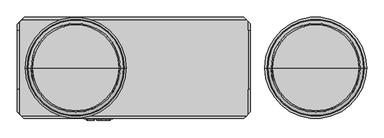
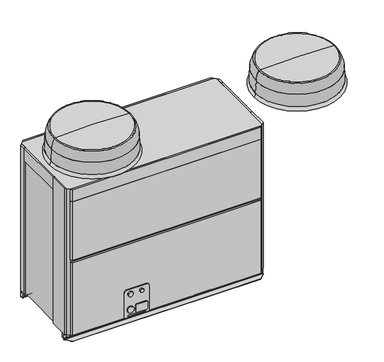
"""IFC4 building model written with IfcOpenShell, lengths in millimetres: proxy geometry, PURY-P168-288_YSJMU_Heat_Recovery_460V : PURY-P192YSJMU-A(-BS)_460V."""

from ifc_helpers import new_model, si_unit, point, frame, frame_2d, origin, place, context, project, spatial, polyline, circle_curve, ellipse_curve, trimmed, segment, composite_curve, outline, extrude, source, transform, mapped, element, save
from ifc_brep_helpers import plane_surface, cylinder_surface, revolved_surface, advanced_brep


def mechanical_equipment_7c6ddfd4(model_context):
    return source(origin(), model_context, "Body", "SolidModel", [
        advanced_brep(
        [(1130.4156536, 0.0, 1550.0000157), (1851.6603464, 0.0, 1550.0000157), (1491.038, 0.0, 1550.0000157), (1156.2569245, 0.0, 1635.7196156), (1825.8190755, 0.0, 1635.7196156), (1165.4260831, 0.0, 1640.2981249), (1816.6499169, 0.0, 1640.2981249), (1491.038, 0.0, 1649.794168)],
        [
            (0, 1, circle_curve(frame((1491.038, 0.0, 1550.0000157), z_axis=(0.0, 0.0, -1.0), x_axis=(1.0, 0.0, 0.0)), 360.6223464)),
            (1, 2),
            (2, 0),
            (1, 0, circle_curve(frame((1491.038, 0.0, 1550.0000157), z_axis=(0.0, 0.0, -1.0), x_axis=(1.0, 0.0, 0.0)), 360.6223464)),
            (3, 4, circle_curve(frame((1491.038, 0.0, 1635.7196156), z_axis=(0.0, 0.0, -1.0), x_axis=(1.0, 0.0, 0.0)), 334.7810755)),
            (4, 1, circle_curve(frame((1667.7568175, 0.0, 1541.3148332), z_axis=(0.0, 1.0, 0.0), x_axis=(1.0, 0.0, 0.0)), 184.1085015)),
            (0, 3, circle_curve(frame((1314.3191825, 0.0, 1541.3148332), z_axis=(0.0, 1.0, 0.0), x_axis=(-1.0, 0.0, 0.0)), 184.1085015)),
            (4, 3, circle_curve(frame((1491.038, 0.0, 1635.7196156), z_axis=(0.0, 0.0, -1.0), x_axis=(1.0, 0.0, 0.0)), 334.7810755)),
            (5, 6, circle_curve(frame((1491.038, 0.0, 1640.2981249), z_axis=(0.0, 0.0, -1.0), x_axis=(1.0, 0.0, 0.0)), 325.6119169)),
            (6, 4, circle_curve(frame((1816.6499169, 0.0, 1628.8275558), z_axis=(0.0, 1.0, 0.0), x_axis=(1.0, 0.0, 0.0)), 11.4705691)),
            (3, 5, circle_curve(frame((1165.4260831, 0.0, 1628.8275558), z_axis=(0.0, 1.0, 0.0), x_axis=(-1.0, 0.0, 0.0)), 11.4705691)),
            (6, 5, circle_curve(frame((1491.038, 0.0, 1640.2981249), z_axis=(0.0, 0.0, -1.0), x_axis=(1.0, 0.0, 0.0)), 325.6119169)),
            (7, 6, circle_curve(frame((1491.038, 0.0, -3937.4433334), z_axis=(0.0, 1.0, 0.0), x_axis=(1.0, 0.0, 0.0)), 5587.2375013)),
            (5, 7, circle_curve(frame((1491.038, 0.0, -3937.4433334), z_axis=(0.0, 1.0, 0.0), x_axis=(-1.0, 0.0, 0.0)), 5587.2375013)),
        ],
        [
            plane_surface(frame((1491.038, 0.0, 1550.0000157), z_axis=(0.0, 0.0, -1.0), x_axis=(1.0, 0.0, 0.0))),
            revolved_surface(trimmed(ellipse_curve(frame((1667.7568175, 0.0, 1541.3148332), z_axis=(0.0, -1.0, 0.0), x_axis=(1.0, 0.0, 0.0)), 184.1085015, 184.1085015), [point((1851.6603464, 0.0, 1550.0000157))], [point((1825.8190755, 0.0, 1635.7196156))], True, "CARTESIAN"), (1491.038, 0.0, 1605.0), (0.0, 0.0, 1.0)),
            revolved_surface(trimmed(ellipse_curve(frame((1816.6499169, 0.0, 1628.8275558), z_axis=(0.0, -1.0, 0.0), x_axis=(1.0, 0.0, 0.0)), 11.4705691, 11.4705691), [point((1825.8190755, 0.0, 1635.7196156))], [point((1816.6499169, 0.0, 1640.2981249))], True, "CARTESIAN"), (1491.038, 0.0, 1605.0), (0.0, 0.0, 1.0)),
            revolved_surface(trimmed(ellipse_curve(frame((1491.038, 0.0, -3937.4433334), z_axis=(0.0, -1.0, 0.0), x_axis=(1.0, 0.0, 0.0)), 5587.2375013, 5587.2375013), [point((1816.6499169, 0.0, 1640.2981249))], [point((1491.038, 0.0, 1649.794168))], True, "CARTESIAN"), (1491.038, 0.0, 1605.0), (0.0, 0.0, 1.0)),
        ],
        [
            (0, [[1, 2, 3]]),
            (0, [[4, -3, -2]]),
            (1, [[5, 6, -1, 7]]),
            (1, [[8, -7, -4, -6]]),
            (2, [[9, 10, -5, 11]]),
            (2, [[12, -11, -8, -10]]),
            (3, [[13, -9, 14]]),
            (3, [[-14, -12, -13]]),
        ],
    ),
        advanced_brep(
        [(1108.9881528, 0.0, 1410.0), (1873.0878472, 0.0, 1410.0), (1491.038, 0.0, 1410.0), (1125.5531583, 0.0, 1438.6914312), (1856.5228417, 0.0, 1438.6914312), (1130.4129453, 0.0, 1550.0000157), (1851.6630547, 0.0, 1550.0000157), (1491.038, 0.0, 1550.0000157)],
        [
            (0, 1, circle_curve(frame((1491.038, 0.0, 1410.0), z_axis=(0.0, 0.0, -1.0), x_axis=(1.0, 0.0, 0.0)), 382.0498472)),
            (1, 2),
            (2, 0),
            (1, 0, circle_curve(frame((1491.038, 0.0, 1410.0), z_axis=(0.0, 0.0, -1.0), x_axis=(1.0, 0.0, 0.0)), 382.0498472)),
            (3, 4, circle_curve(frame((1491.038, 0.0, 1438.6914312), z_axis=(0.0, 0.0, -1.0), x_axis=(1.0, 0.0, 0.0)), 365.4848417)),
            (4, 1, circle_curve(frame((1877.2748091, 0.0, 1431.5449644), z_axis=(0.0, -1.0, 0.0), x_axis=(1.0, 0.0, 0.0)), 21.9480327)),
            (0, 3, circle_curve(frame((1104.8011909, 0.0, 1431.5449644), z_axis=(0.0, -1.0, 0.0), x_axis=(-1.0, 0.0, 0.0)), 21.9480327)),
            (4, 3, circle_curve(frame((1491.038, 0.0, 1438.6914312), z_axis=(0.0, 0.0, -1.0), x_axis=(1.0, 0.0, 0.0)), 365.4848417)),
            (5, 6, circle_curve(frame((1491.038, 0.0, 1550.0000157), z_axis=(0.0, 0.0, -1.0), x_axis=(1.0, 0.0, 0.0)), 360.6250547)),
            (6, 4),
            (3, 5),
            (6, 5, circle_curve(frame((1491.038, 0.0, 1550.0000157), z_axis=(0.0, 0.0, -1.0), x_axis=(1.0, 0.0, 0.0)), 360.6250547)),
            (7, 6),
            (5, 7),
        ],
        [
            plane_surface(frame((1491.038, 0.0, 1410.0), z_axis=(0.0, 0.0, -1.0), x_axis=(1.0, 0.0, 0.0))),
            revolved_surface(trimmed(ellipse_curve(frame((1877.2748091, 0.0, 1431.5449644), z_axis=(0.0, 1.0, 0.0), x_axis=(1.0, 0.0, 0.0)), 21.9480327, 21.9480327), [point((1873.0878472, 0.0, 1410.0))], [point((1856.5228417, 0.0, 1438.6914312))], True, "CARTESIAN"), (1491.038, 0.0, 1470.0), (0.0, 0.0, 1.0)),
            revolved_surface(polyline([(1856.5228417, 0.0, 1438.6914312), (1851.6630547, 0.0, 1550.0000157)]), (1491.038, 0.0, 1470.0), (0.0, 0.0, 1.0)),
            plane_surface(frame((1491.038, 0.0, 1550.0000157), z_axis=(0.0, 0.0, 1.0), x_axis=(1.0, 0.0, 0.0))),
        ],
        [
            (0, [[1, 2, 3]]),
            (0, [[4, -3, -2]]),
            (1, [[5, 6, -1, 7]]),
            (1, [[8, -7, -4, -6]]),
            (2, [[9, 10, -5, 11]]),
            (2, [[12, -11, -8, -10]]),
            (3, [[13, -9, 14]]),
            (3, [[-14, -12, -13]]),
        ],
    ),
        extrude(outline(composite_curve([segment(trimmed(circle_curve(frame_2d((148.5853631, -142.3882489)), 9.9920268), [point((158.5773899, -142.3882489))], [point((148.5853631, -152.3802757))], False, "CARTESIAN"), True, "CONTINUOUS"), segment(polyline([(148.5853631, -152.3802757), (96.5694168, -152.3802757)]), True, "CONTINUOUS"), segment(trimmed(circle_curve(frame_2d((96.5694168, -142.3882489)), 9.9920268), [point((96.5694168, -152.3802757))], [point((86.5773899, -142.3882489))], False, "CARTESIAN"), True, "CONTINUOUS"), segment(polyline([(86.5773899, -142.3882489), (86.5773899, -60.3723026)]), True, "CONTINUOUS"), segment(trimmed(circle_curve(frame_2d((96.5694168, -60.3723026)), 9.9920268), [point((86.5773899, -60.3723026))], [point((96.5694168, -50.3802757))], False, "CARTESIAN"), True, "CONTINUOUS"), segment(polyline([(96.5694168, -50.3802757), (148.5853631, -50.3802757)]), True, "CONTINUOUS"), segment(trimmed(circle_curve(frame_2d((148.5853631, -60.3723026)), 9.9920268), [point((148.5853631, -50.3802757))], [point((158.5773899, -60.3723026))], False, "CARTESIAN"), True, "CONTINUOUS"), segment(polyline([(158.5773899, -60.3723026), (158.5773899, -142.3882489)]), True, "CONTINUOUS")], self_intersect=False)), frame((0.0, -397.2710787, 0.0), z_axis=(0.0, 1.0, 0.0), x_axis=(0.0, 0.0, 1.0)), (0.0, 0.0, 1.0), 12.5),
        extrude(outline(composite_curve([segment(trimmed(circle_curve(frame_2d((292.0295314, -55.1286698)), 21.9704686), [point((292.0295314, -33.1582012))], [point((314.0, -55.1286698))], False, "CARTESIAN"), True, "CONTINUOUS"), segment(polyline([(314.0, -55.1286698), (314.0, -226.9915314)]), True, "CONTINUOUS"), segment(trimmed(circle_curve(frame_2d((292.0295314, -226.9915314)), 21.9704686), [point((314.0, -226.9915314))], [point((292.0295314, -248.962))], False, "CARTESIAN"), True, "CONTINUOUS"), segment(polyline([(292.0295314, -248.962), (54.0, -248.962), (54.0, -33.1582012), (292.0295314, -33.1582012)]), True, "CONTINUOUS")], self_intersect=False), holes=[composite_curve([segment(trimmed(circle_curve(frame_2d((66.0219764, -74.4132816)), 7.4940201), [point((73.5159966, -74.4132816))], [point((58.5279563, -74.4132816))], True, "CARTESIAN"), True, "CONTINUOUS"), segment(polyline([(58.5279563, -74.4132816), (58.5279563, -209.3056439)]), True, "CONTINUOUS"), segment(trimmed(circle_curve(frame_2d((66.0219764, -209.3056439)), 7.4940201), [point((58.5279563, -209.3056439))], [point((73.5159966, -209.3056439))], True, "CARTESIAN"), True, "CONTINUOUS"), segment(polyline([(73.5159966, -209.3056439), (73.5159966, -74.4132816)]), True, "CONTINUOUS")], self_intersect=False)]), frame((0.0, -384.7710787, 0.0), z_axis=(0.0, 1.0, 0.0), x_axis=(0.0, 0.0, 1.0)), (0.0, 0.0, 1.0), 4.7710787),
        extrude(outline(composite_curve([segment(trimmed(circle_curve(frame_2d((272.5206481, -199.3802757)), 22.225), [point((272.5206481, -221.6052757))], [point((272.5206481, -177.1552757))], False, "CARTESIAN"), True, "CONTINUOUS"), segment(trimmed(circle_curve(frame_2d((272.5206481, -199.3802757)), 22.225), [point((272.5206481, -177.1552757))], [point((272.5206481, -221.6052757))], False, "CARTESIAN"), True, "CONTINUOUS")], self_intersect=False)), frame((0.0, -397.2710787, 0.0), z_axis=(0.0, 1.0, 0.0), x_axis=(0.0, 0.0, 1.0)), (0.0, 0.0, 1.0), 12.5),
        extrude(outline(composite_curve([segment(trimmed(circle_curve(frame_2d((272.5206481, -101.3802757)), 17.0), [point((272.5206481, -118.3802757))], [point((272.5206481, -84.3802757))], False, "CARTESIAN"), True, "CONTINUOUS"), segment(trimmed(circle_curve(frame_2d((272.5206481, -101.3802757)), 17.0), [point((272.5206481, -84.3802757))], [point((272.5206481, -118.3802757))], False, "CARTESIAN"), True, "CONTINUOUS")], self_intersect=False)), frame((0.0, -397.2710787, 0.0), z_axis=(0.0, 1.0, 0.0), x_axis=(0.0, 0.0, 1.0)), (0.0, 0.0, 1.0), 12.5),
        extrude(outline(composite_curve([segment(trimmed(circle_curve(frame_2d((127.8409633, -199.3802757)), 28.575), [point((127.8409633, -227.9552757))], [point((127.8409633, -170.8052757))], False, "CARTESIAN"), True, "CONTINUOUS"), segment(trimmed(circle_curve(frame_2d((127.8409633, -199.3802757)), 28.575), [point((127.8409633, -170.8052757))], [point((127.8409633, -227.9552757))], False, "CARTESIAN"), True, "CONTINUOUS")], self_intersect=False)), frame((0.0, -397.2710787, 0.0), z_axis=(0.0, 1.0, 0.0), x_axis=(0.0, 0.0, 1.0)), (0.0, 0.0, 1.0), 12.5),
        extrude(outline(polyline([(1001.038, 284.0), (985.038, 284.0), (985.038, 346.9999976), (1001.038, 330.9999976), (1001.038, 284.0)])), frame((0.0, 0.0, 54.0), z_axis=(0.0, 0.0, 1.0), x_axis=(1.0, 0.0, 0.0)), (0.0, 0.0, 1.0), 1356.0),
        extrude(outline(polyline([(985.038, -164.0), (1001.038, -164.0), (1001.038, -331.000002), (985.038, -347.000002), (985.038, -164.0)])), frame((0.0, 0.0, 54.0), z_axis=(0.0, 0.0, 1.0), x_axis=(1.0, 0.0, 0.0)), (0.0, 0.0, 1.0), 1356.0),
        extrude(outline(polyline([(932.5551598, 364.0), (932.5551598, 380.0), (952.0379976, 380.0), (968.0379976, 364.0), (932.5551598, 364.0)])), frame((0.0, 0.0, 54.0), z_axis=(0.0, 0.0, 1.0), x_axis=(1.0, 0.0, 0.0)), (0.0, 0.0, 1.0), 1245.8),
        extrude(outline(polyline([(-670.129169, 380.0), (-670.129169, 364.0), (-714.5495072, 364.0), (-698.5495072, 380.0), (-670.129169, 380.0)])), frame((0.0, 0.0, 54.0), z_axis=(0.0, 0.0, 1.0), x_axis=(1.0, 0.0, 0.0)), (0.0, 0.0, 1.0), 1245.8),
        extrude(outline(polyline([(968.0379976, 364.0), (-714.5495072, 364.0), (-698.5495072, 380.0), (952.0379976, 380.0), (968.0379976, 364.0)])), frame((0.0, 0.0, 1299.8), z_axis=(0.0, 0.0, 1.0), x_axis=(1.0, 0.0, 0.0)), (0.0, 0.0, 1.0), 110.2),
        extrude(outline(polyline([(952.038002, -380.0), (-699.9620129, -380.0), (-715.9620129, -364.0), (968.038002, -364.0), (952.038002, -380.0)])), frame((0.0, 0.0, 1299.8), z_axis=(0.0, 0.0, 1.0), x_axis=(1.0, 0.0, 0.0)), (0.0, 0.0, 1.0), 110.2),
        extrude(outline(polyline([(-715.9620129, -364.0), (968.038002, -364.0), (952.038002, -380.0), (-699.9620129, -380.0), (-715.9620129, -364.0)])), frame((0.0, 0.0, 755.5000076), z_axis=(0.0, 0.0, 1.0), x_axis=(1.0, 0.0, 0.0)), (0.0, 0.0, 1.0), 544.2999924),
        extrude(outline(polyline([(-732.962, -347.0000129), (-732.962, 345.5875072), (-714.5495072, 364.0), (968.0379976, 364.0), (985.038, 346.9999976), (985.038, -347.000002), (968.038002, -364.0), (-715.9620129, -364.0), (-732.962, -347.0000129)])), frame((0.0, 0.0, 54.0), z_axis=(0.0, 0.0, 1.0), x_axis=(1.0, 0.0, 0.0)), (0.0, 0.0, 1.0), 1356.0),
        extrude(outline(polyline([(-732.962, 284.0), (-748.962, 284.0), (-748.962, 329.5875072), (-732.962, 345.5875072), (-732.962, 284.0)])), frame((0.0, 0.0, 54.0), z_axis=(0.0, 0.0, 1.0), x_axis=(1.0, 0.0, 0.0)), (0.0, 0.0, 1.0), 1356.0),
        extrude(outline(polyline([(-748.962, -164.0), (-732.962, -164.0), (-732.962, -347.0000129), (-748.962, -331.0000129), (-748.962, -164.0)])), frame((0.0, 0.0, 54.0), z_axis=(0.0, 0.0, 1.0), x_axis=(1.0, 0.0, 0.0)), (0.0, 0.0, 1.0), 1356.0),
        extrude(outline(polyline([(-715.9620129, -364.0), (968.038002, -364.0), (952.038002, -380.0), (-699.9620129, -380.0), (-715.9620129, -364.0)])), frame((0.0, 0.0, 54.0), z_axis=(0.0, 0.0, 1.0), x_axis=(1.0, 0.0, 0.0)), (0.0, 0.0, 1.0), 678.5000074),
        extrude(outline(polyline([(161.038, 364.0), (161.038, 380.0), (932.5551598, 380.0), (932.5551598, 364.0), (161.038, 364.0)])), frame((0.0, 0.0, 54.0), z_axis=(0.0, 0.0, 1.0), x_axis=(1.0, 0.0, 0.0)), (0.0, 0.0, 1.0), 1245.8),
        extrude(outline(polyline([(161.038, 339.0), (141.038, 339.0), (141.038, 380.0), (161.038, 380.0), (161.038, 339.0)])), frame((0.0, 0.0, 54.0), z_axis=(0.0, 0.0, 1.0), x_axis=(1.0, 0.0, 0.0)), (0.0, 0.0, 1.0), 1245.8),
        extrude(outline(polyline([(111.038, 339.0), (91.038, 339.0), (91.038, 380.0), (111.038, 380.0), (111.038, 339.0)])), frame((0.0, 0.0, 54.0), z_axis=(0.0, 0.0, 1.0), x_axis=(1.0, 0.0, 0.0)), (0.0, 0.0, 1.0), 1245.8),
        advanced_brep(
        [(-672.0843464, 0.0, 1550.0000157), (49.1603464, 0.0, 1550.0000157), (-311.462, 0.0, 1550.0000157), (-646.2430755, 0.0, 1635.7196156), (23.3190755, 0.0, 1635.7196156), (-637.0739169, 0.0, 1640.2981249), (14.1499169, 0.0, 1640.2981249), (-311.462, 0.0, 1649.7941679)],
        [
            (0, 1, circle_curve(frame((-311.462, 0.0, 1550.0000157), z_axis=(0.0, 0.0, -1.0), x_axis=(1.0, 0.0, 0.0)), 360.6223464)),
            (1, 2),
            (2, 0),
            (1, 0, circle_curve(frame((-311.462, 0.0, 1550.0000157), z_axis=(0.0, 0.0, -1.0), x_axis=(1.0, 0.0, 0.0)), 360.6223464)),
            (3, 4, circle_curve(frame((-311.462, 0.0, 1635.7196156), z_axis=(0.0, 0.0, -1.0), x_axis=(1.0, 0.0, 0.0)), 334.7810755)),
            (4, 1, circle_curve(frame((-134.7431825, 0.0, 1541.3148332), z_axis=(0.0, 1.0, 0.0), x_axis=(1.0, 0.0, 0.0)), 184.1085015)),
            (0, 3, circle_curve(frame((-488.1808175, 0.0, 1541.3148332), z_axis=(0.0, 1.0, 0.0), x_axis=(-1.0, 0.0, 0.0)), 184.1085015)),
            (4, 3, circle_curve(frame((-311.462, 0.0, 1635.7196156), z_axis=(0.0, 0.0, -1.0), x_axis=(1.0, 0.0, 0.0)), 334.7810755)),
            (5, 6, circle_curve(frame((-311.462, 0.0, 1640.2981249), z_axis=(0.0, 0.0, -1.0), x_axis=(1.0, 0.0, 0.0)), 325.6119169)),
            (6, 4, circle_curve(frame((14.1499169, 0.0, 1628.8275558), z_axis=(0.0, 1.0, 0.0), x_axis=(1.0, 0.0, 0.0)), 11.4705691)),
            (3, 5, circle_curve(frame((-637.0739169, 0.0, 1628.8275558), z_axis=(0.0, 1.0, 0.0), x_axis=(-1.0, 0.0, 0.0)), 11.4705691)),
            (6, 5, circle_curve(frame((-311.462, 0.0, 1640.2981249), z_axis=(0.0, 0.0, -1.0), x_axis=(1.0, 0.0, 0.0)), 325.6119169)),
            (7, 6, circle_curve(frame((-311.462, 0.0, -3937.4433334), z_axis=(0.0, 1.0, 0.0), x_axis=(1.0, 0.0, 0.0)), 5587.2375013)),
            (5, 7, circle_curve(frame((-311.462, 0.0, -3937.4433334), z_axis=(0.0, 1.0, 0.0), x_axis=(-1.0, 0.0, 0.0)), 5587.2375013)),
        ],
        [
            plane_surface(frame((-311.462, 0.0, 1550.0000157), z_axis=(0.0, 0.0, -1.0), x_axis=(1.0, 0.0, 0.0))),
            revolved_surface(trimmed(ellipse_curve(frame((-134.7431825, 0.0, 1541.3148332), z_axis=(0.0, -1.0, 0.0), x_axis=(1.0, 0.0, 0.0)), 184.1085015, 184.1085015), [point((49.1603464, 0.0, 1550.0000157))], [point((23.3190755, 0.0, 1635.7196156))], True, "CARTESIAN"), (-311.462, 0.0, 1605.0), (0.0, 0.0, 1.0)),
            revolved_surface(trimmed(ellipse_curve(frame((14.1499169, 0.0, 1628.8275558), z_axis=(0.0, -1.0, 0.0), x_axis=(1.0, 0.0, 0.0)), 11.4705691, 11.4705691), [point((23.3190755, 0.0, 1635.7196156))], [point((14.1499169, 0.0, 1640.2981249))], True, "CARTESIAN"), (-311.462, 0.0, 1605.0), (0.0, 0.0, 1.0)),
            revolved_surface(trimmed(ellipse_curve(frame((-311.462, 0.0, -3937.4433334), z_axis=(0.0, -1.0, 0.0), x_axis=(1.0, 0.0, 0.0)), 5587.2375013, 5587.2375013), [point((14.1499169, 0.0, 1640.2981249))], [point((-311.462, 0.0, 1649.7941679))], True, "CARTESIAN"), (-311.462, 0.0, 1605.0), (0.0, 0.0, 1.0)),
        ],
        [
            (0, [[1, 2, 3]]),
            (0, [[4, -3, -2]]),
            (1, [[5, 6, -1, 7]]),
            (1, [[8, -7, -4, -6]]),
            (2, [[9, 10, -5, 11]]),
            (2, [[12, -11, -8, -10]]),
            (3, [[13, -9, 14]]),
            (3, [[-14, -12, -13]]),
        ],
    ),
        advanced_brep(
        [(-693.5118472, 0.0, 1410.0), (70.5878472, 0.0, 1410.0), (-311.462, 0.0, 1410.0), (-676.9468417, 0.0, 1438.6914312), (54.0228417, 0.0, 1438.6914312), (-672.0870547, 0.0, 1550.0000157), (49.1630547, 0.0, 1550.0000157), (-311.462, 0.0, 1550.0000157)],
        [
            (0, 1, circle_curve(frame((-311.462, 0.0, 1410.0), z_axis=(0.0, 0.0, -1.0), x_axis=(1.0, 0.0, 0.0)), 382.0498472)),
            (1, 2),
            (2, 0),
            (1, 0, circle_curve(frame((-311.462, 0.0, 1410.0), z_axis=(0.0, 0.0, -1.0), x_axis=(1.0, 0.0, 0.0)), 382.0498472)),
            (3, 4, circle_curve(frame((-311.462, 0.0, 1438.6914312), z_axis=(0.0, 0.0, -1.0), x_axis=(1.0, 0.0, 0.0)), 365.4848417)),
            (4, 1, circle_curve(frame((74.7748091, 0.0, 1431.5449644), z_axis=(0.0, -1.0, 0.0), x_axis=(1.0, 0.0, 0.0)), 21.9480327)),
            (0, 3, circle_curve(frame((-697.6988091, 0.0, 1431.5449644), z_axis=(0.0, -1.0, 0.0), x_axis=(-1.0, 0.0, 0.0)), 21.9480327)),
            (4, 3, circle_curve(frame((-311.462, 0.0, 1438.6914312), z_axis=(0.0, 0.0, -1.0), x_axis=(1.0, 0.0, 0.0)), 365.4848417)),
            (5, 6, circle_curve(frame((-311.462, 0.0, 1550.0000157), z_axis=(0.0, 0.0, -1.0), x_axis=(1.0, 0.0, 0.0)), 360.6250547)),
            (6, 4),
            (3, 5),
            (6, 5, circle_curve(frame((-311.462, 0.0, 1550.0000157), z_axis=(0.0, 0.0, -1.0), x_axis=(1.0, 0.0, 0.0)), 360.6250547)),
            (7, 6),
            (5, 7),
        ],
        [
            plane_surface(frame((-311.462, 0.0, 1410.0), z_axis=(0.0, 0.0, -1.0), x_axis=(1.0, 0.0, 0.0))),
            revolved_surface(trimmed(ellipse_curve(frame((74.7748091, 0.0, 1431.5449644), z_axis=(0.0, 1.0, 0.0), x_axis=(1.0, 0.0, 0.0)), 21.9480327, 21.9480327), [point((70.5878472, 0.0, 1410.0))], [point((54.0228417, 0.0, 1438.6914312))], True, "CARTESIAN"), (-311.462, 0.0, 1470.0), (0.0, 0.0, 1.0)),
            revolved_surface(polyline([(54.0228417, 0.0, 1438.6914312), (49.1630547, 0.0, 1550.0000157)]), (-311.462, 0.0, 1470.0), (0.0, 0.0, 1.0)),
            plane_surface(frame((-311.462, 0.0, 1550.0000157), z_axis=(0.0, 0.0, 1.0), x_axis=(1.0, 0.0, 0.0))),
        ],
        [
            (0, [[1, 2, 3]]),
            (0, [[4, -3, -2]]),
            (1, [[5, 6, -1, 7]]),
            (1, [[8, -7, -4, -6]]),
            (2, [[9, 10, -5, 11]]),
            (2, [[12, -11, -8, -10]]),
            (3, [[13, -9, 14]]),
            (3, [[-14, -12, -13]]),
        ],
    ),
        extrude(outline(polyline([(-670.129169, 364.0), (-670.129169, 380.0), (91.038, 380.0), (91.038, 364.0), (-670.129169, 364.0)])), frame((0.0, 0.0, 54.0), z_axis=(0.0, 0.0, 1.0), x_axis=(1.0, 0.0, 0.0)), (0.0, 0.0, 1.0), 1245.8),
        advanced_brep(
        [(1001.038, 330.9999976, 2.3), (1001.038, 330.9999976, 0.0), (952.0379976, 380.0, 0.0), (952.0379976, 380.0, 2.3), (-748.962, 329.5875072, 0.0), (-748.962, 329.5875072, 2.3), (-698.5495072, 380.0, 2.3), (-698.5495072, 380.0, 0.0), (1001.038, 329.5875072, 2.3), (1001.038, 324.5875071, 7.3000001), (1001.038, 324.5875071, 11.7000001), (1001.038, 325.5875071, 12.7000001), (1001.038, 327.5875072, 12.7000001), (1001.038, 327.5875072, 47.3000005), (1001.038, 325.5875071, 47.3000005), (1001.038, 324.5875071, 48.3000005), (1001.038, 324.5875071, 50.0000004), (1001.038, 320.5875077, 53.9999997), (1001.038, 299.5875069, 53.9999997), (1001.038, 299.5875069, 14.0000001), (1001.038, 304.5875069, 9.0000001), (1001.038, 322.2875071, 9.0000001), (1001.038, 322.2875071, 7.3000001), (1001.038, 329.5875072, 0.0), (-748.962, 322.2875071, 7.3000001), (-748.962, 322.2875071, 9.0000001), (-748.962, 304.5875069, 9.0000001), (-748.962, 299.5875069, 14.0000001), (-748.962, 299.5875069, 53.9999997), (-748.962, 320.5875077, 53.9999997), (-748.962, 324.5875071, 50.0000004), (-748.962, 324.5875071, 48.3000005), (-748.962, 325.5875071, 47.3000005), (-748.962, 327.5875072, 47.3000005), (-748.962, 327.5875072, 12.7000001), (-748.962, 325.5875071, 12.7000001), (-748.962, 324.5875071, 11.7000001), (-748.962, 324.5875071, 7.3000001), (972.288009, 327.5875072, 45.0000005), (930.7880086, 327.5875072, 45.0000005), (924.7880085, 327.5875072, 39.0000004), (924.7880085, 327.5875072, 21.0000002), (930.7880086, 327.5875072, 15.0000002), (972.288009, 327.5875072, 15.0000002), (978.2880091, 327.5875072, 21.0000002), (978.2880091, 327.5875072, 39.0000004), (-720.9619997, 327.5875072, 45.0000005), (-726.9619998, 327.5875072, 39.0000004), (-726.9619998, 327.5875072, 21.0000002), (-720.9619997, 327.5875072, 15.0000002), (-679.4619993, 327.5875072, 15.0000002), (-673.4619992, 327.5875072, 21.0000002), (-673.4619992, 327.5875072, 39.0000004), (-679.4619993, 327.5875072, 45.0000005), (930.7880086, 299.5875069, 45.0000005), (972.288009, 299.5875069, 45.0000005), (978.2880091, 299.5875069, 39.0000004), (978.2880091, 299.5875069, 21.0000002), (972.288009, 299.5875069, 15.0000002), (930.7880086, 299.5875069, 15.0000002), (924.7880085, 299.5875069, 21.0000002), (924.7880085, 299.5875069, 39.0000004), (-726.9619998, 299.5875069, 39.0000004), (-720.9619997, 299.5875069, 45.0000005), (-679.4619993, 299.5875069, 45.0000005), (-673.4619992, 299.5875069, 39.0000004), (-673.4619992, 299.5875069, 21.0000002), (-679.4619993, 299.5875069, 15.0000002), (-720.9619997, 299.5875069, 15.0000002), (-726.9619998, 299.5875069, 21.0000002)],
        [
            (0, 1),
            (1, 2),
            (2, 3),
            (3, 0),
            (4, 5),
            (5, 6),
            (6, 7),
            (7, 4),
            (8, 9, circle_curve(frame((1001.038, 329.5875072, 7.3000001), z_axis=(-1.0, 0.0, 0.0), x_axis=(0.0, 1.0, 0.0)), 5.0000001)),
            (9, 10),
            (10, 11, circle_curve(frame((1001.038, 325.5875071, 11.7000001), z_axis=(-1.0, 0.0, 0.0), x_axis=(0.0, 1.0, 0.0)), 1.0)),
            (11, 12),
            (12, 13),
            (13, 14),
            (14, 15, circle_curve(frame((1001.038, 325.5875071, 48.3000005), z_axis=(-1.0, 0.0, 0.0), x_axis=(0.0, 1.0, 0.0)), 1.0)),
            (15, 16),
            (16, 17, circle_curve(frame((1001.038, 320.5875077, 50.0000004), z_axis=(1.0, 0.0, 0.0), x_axis=(0.0, 1.0, 0.0)), 3.9999994)),
            (17, 18),
            (18, 19),
            (19, 20, circle_curve(frame((1001.038, 304.5875069, 14.0000001), z_axis=(1.0, 0.0, 0.0), x_axis=(0.0, 1.0, 0.0)), 5.0000001)),
            (20, 21),
            (21, 22),
            (22, 23, circle_curve(frame((1001.038, 329.5875072, 7.3000001), z_axis=(1.0, 0.0, 0.0), x_axis=(0.0, 1.0, 0.0)), 7.3000001)),
            (23, 1),
            (0, 8),
            (4, 24, circle_curve(frame((-748.962, 329.5875072, 7.3000001), z_axis=(-1.0, 0.0, 0.0), x_axis=(0.0, 1.0, 0.0)), 7.3000001)),
            (24, 25),
            (25, 26),
            (26, 27, circle_curve(frame((-748.962, 304.5875069, 14.0000001), z_axis=(-1.0, 0.0, 0.0), x_axis=(0.0, 1.0, 0.0)), 5.0000001)),
            (27, 28),
            (28, 29),
            (29, 30, circle_curve(frame((-748.962, 320.5875077, 50.0000004), z_axis=(-1.0, 0.0, 0.0), x_axis=(0.0, 1.0, 0.0)), 3.9999994)),
            (30, 31),
            (31, 32, circle_curve(frame((-748.962, 325.5875071, 48.3000005), z_axis=(1.0, 0.0, 0.0), x_axis=(0.0, 1.0, 0.0)), 1.0)),
            (32, 33),
            (33, 34),
            (34, 35),
            (35, 36, circle_curve(frame((-748.962, 325.5875071, 11.7000001), z_axis=(1.0, 0.0, 0.0), x_axis=(0.0, 1.0, 0.0)), 1.0)),
            (36, 37),
            (37, 5, circle_curve(frame((-748.962, 329.5875072, 7.3000001), z_axis=(1.0, 0.0, 0.0), x_axis=(0.0, 1.0, 0.0)), 5.0000001)),
            (8, 5),
            (37, 9),
            (36, 10),
            (35, 11),
            (34, 12),
            (33, 13),
            (38, 39),
            (39, 40, circle_curve(frame((930.7880086, 327.5875072, 39.0000004), z_axis=(0.0, -1.0, 0.0), x_axis=(1.0, 0.0, 0.0)), 6.0000001)),
            (40, 41),
            (41, 42, circle_curve(frame((930.7880086, 327.5875072, 21.0000002), z_axis=(0.0, -1.0, 0.0), x_axis=(1.0, 0.0, 0.0)), 6.0000001)),
            (42, 43),
            (43, 44, circle_curve(frame((972.288009, 327.5875072, 21.0000002), z_axis=(0.0, -1.0, 0.0), x_axis=(1.0, 0.0, 0.0)), 6.0000001)),
            (44, 45),
            (45, 38, circle_curve(frame((972.288009, 327.5875072, 39.0000004), z_axis=(0.0, -1.0, 0.0), x_axis=(1.0, 0.0, 0.0)), 6.0000001)),
            (46, 47, circle_curve(frame((-720.9619997, 327.5875072, 39.0000004), z_axis=(0.0, -1.0, 0.0), x_axis=(1.0, 0.0, 0.0)), 6.0000001)),
            (47, 48),
            (48, 49, circle_curve(frame((-720.9619997, 327.5875072, 21.0000002), z_axis=(0.0, -1.0, 0.0), x_axis=(1.0, 0.0, 0.0)), 6.0000001)),
            (49, 50),
            (50, 51, circle_curve(frame((-679.4619993, 327.5875072, 21.0000002), z_axis=(0.0, -1.0, 0.0), x_axis=(1.0, 0.0, 0.0)), 6.0000001)),
            (51, 52),
            (52, 53, circle_curve(frame((-679.4619993, 327.5875072, 39.0000004), z_axis=(0.0, -1.0, 0.0), x_axis=(1.0, 0.0, 0.0)), 6.0000001)),
            (53, 46),
            (32, 14),
            (31, 15),
            (30, 16),
            (29, 17),
            (28, 18),
            (27, 19),
            (54, 55),
            (55, 56, circle_curve(frame((972.288009, 299.5875069, 39.0000004), z_axis=(0.0, 1.0, 0.0), x_axis=(1.0, 0.0, 0.0)), 6.0000001)),
            (56, 57),
            (57, 58, circle_curve(frame((972.288009, 299.5875069, 21.0000002), z_axis=(0.0, 1.0, 0.0), x_axis=(1.0, 0.0, 0.0)), 6.0000001)),
            (58, 59),
            (59, 60, circle_curve(frame((930.7880086, 299.5875069, 21.0000002), z_axis=(0.0, 1.0, 0.0), x_axis=(1.0, 0.0, 0.0)), 6.0000001)),
            (60, 61),
            (61, 54, circle_curve(frame((930.7880086, 299.5875069, 39.0000004), z_axis=(0.0, 1.0, 0.0), x_axis=(1.0, 0.0, 0.0)), 6.0000001)),
            (62, 63, circle_curve(frame((-720.9619997, 299.5875069, 39.0000004), z_axis=(0.0, 1.0, 0.0), x_axis=(1.0, 0.0, 0.0)), 6.0000001)),
            (63, 64),
            (64, 65, circle_curve(frame((-679.4619993, 299.5875069, 39.0000004), z_axis=(0.0, 1.0, 0.0), x_axis=(1.0, 0.0, 0.0)), 6.0000001)),
            (65, 66),
            (66, 67, circle_curve(frame((-679.4619993, 299.5875069, 21.0000002), z_axis=(0.0, 1.0, 0.0), x_axis=(1.0, 0.0, 0.0)), 6.0000001)),
            (67, 68),
            (68, 69, circle_curve(frame((-720.9619997, 299.5875069, 21.0000002), z_axis=(0.0, 1.0, 0.0), x_axis=(1.0, 0.0, 0.0)), 6.0000001)),
            (69, 62),
            (26, 20),
            (25, 21),
            (24, 22),
            (4, 23),
            (7, 2),
            (6, 3),
            (38, 55),
            (54, 39),
            (61, 40),
            (60, 41),
            (59, 42),
            (58, 43),
            (57, 44),
            (56, 45),
            (46, 63),
            (62, 47),
            (69, 48),
            (68, 49),
            (67, 50),
            (66, 51),
            (65, 52),
            (64, 53),
        ],
        [
            plane_surface(frame((952.0379976, 380.0, 1410.0), z_axis=(0.7071067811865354, 0.7071067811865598, 0.0), x_axis=(0.0, 0.0, -1.0))),
            plane_surface(frame((-748.962, 329.5875072, 1410.0), z_axis=(-0.707106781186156, 0.7071067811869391, 0.0), x_axis=(0.0, 0.0, -1.0))),
            plane_surface(frame((1001.038, 334.5875072, 7.3000001), z_axis=(1.0, 0.0, 0.0), x_axis=(0.0, 0.0, -1.0))),
            plane_surface(frame((-748.962, 334.5875072, 7.3000001), z_axis=(-1.0, 0.0, 0.0), x_axis=(0.0, 0.0, 1.0))),
            revolved_surface(polyline([(-748.962, 334.5875073, 7.3000001), (1001.038, 334.5875073, 7.3000001)]), (-748.962, 329.5875072, 7.3000001), (-1.0, 0.0, 0.0)),
            plane_surface(frame((1001.038, 324.5875071, 7.3000001), z_axis=(0.0, 1.0, 0.0), x_axis=(-1.0, 0.0, 0.0))),
            revolved_surface(polyline([(-748.962, 326.5875071, 11.7000001), (1001.038, 326.5875071, 11.7000001)]), (-748.962, 325.5875071, 11.7000001), (-1.0, 0.0, 0.0)),
            plane_surface(frame((1001.038, 325.5875071, 12.7000001), z_axis=(0.0, 0.0, -1.0), x_axis=(-1.0, 0.0, 0.0))),
            plane_surface(frame((1001.038, 327.5875072, 12.7000001), z_axis=(0.0, 1.0, 0.0), x_axis=(-1.0, 0.0, 0.0))),
            plane_surface(frame((1001.038, 327.5875072, 47.3000005), z_axis=(0.0, 0.0, 1.0), x_axis=(-1.0, 0.0, 0.0))),
            revolved_surface(polyline([(-748.962, 326.5875071, 48.3000005), (1001.038, 326.5875071, 48.3000005)]), (-748.962, 325.5875071, 48.3000005), (-1.0, 0.0, 0.0)),
            plane_surface(frame((1001.038, 324.5875071, 48.3000005), z_axis=(0.0, 1.0, 0.0), x_axis=(-1.0, 0.0, 0.0))),
            cylinder_surface(frame((-748.962, 320.5875077, 50.0000004), z_axis=(1.0, 0.0, 0.0), x_axis=(0.0, 1.0, 0.0)), 3.9999994),
            plane_surface(frame((1001.038, 320.5875077, 53.9999997), z_axis=(0.0, 0.0, 1.0), x_axis=(-1.0, 0.0, 0.0))),
            plane_surface(frame((1001.038, 299.5875069, 53.9999997), z_axis=(0.0, -1.0, 0.0), x_axis=(-1.0, 0.0, 0.0))),
            cylinder_surface(frame((-748.962, 304.5875069, 14.0000001), z_axis=(1.0, 0.0, 0.0), x_axis=(0.0, 1.0, 0.0)), 5.0000001),
            plane_surface(frame((1001.038, 304.5875069, 9.0000001), z_axis=(0.0, 0.0, -1.0), x_axis=(-1.0, 0.0, 0.0))),
            plane_surface(frame((1001.038, 322.2875071, 9.0000001), z_axis=(0.0, -1.0, 0.0), x_axis=(-1.0, 0.0, 0.0))),
            cylinder_surface(frame((-748.962, 329.5875072, 7.3000001), z_axis=(1.0, 0.0, 0.0), x_axis=(0.0, 1.0, 0.0)), 7.3000001),
            plane_surface(frame((1001.038, 329.5875072, 0.0), z_axis=(0.0, 0.0, -1.0), x_axis=(-1.0, 0.0, 0.0))),
            plane_surface(frame((1001.038, 380.0, 0.0), z_axis=(0.0, 1.0, 0.0), x_axis=(-1.0, 0.0, 0.0))),
            plane_surface(frame((1001.038, 380.0, 2.3), z_axis=(0.0, 0.0, 1.0), x_axis=(-1.0, 0.0, 0.0))),
            plane_surface(frame((972.288009, -339.0, 45.0000005), z_axis=(0.0, 0.0, -1.0), x_axis=(0.0, 1.0, 0.0))),
            revolved_surface(polyline([(936.7880087, 299.5875069, 39.0000004), (936.7880087, 327.5875072, 39.0000004)]), (930.7880086, 339.0, 39.0000004), (0.0, -1.0, 0.0)),
            plane_surface(frame((924.7880085, -339.0, 39.0000004), z_axis=(1.0, 0.0, 0.0), x_axis=(0.0, 1.0, 0.0))),
            revolved_surface(polyline([(936.7880087, 299.5875069, 21.0000002), (936.7880087, 327.5875072, 21.0000002)]), (930.7880086, 339.0, 21.0000002), (0.0, -1.0, 0.0)),
            plane_surface(frame((930.7880086, -339.0, 15.0000002), z_axis=(0.0, 0.0, 1.0), x_axis=(0.0, 1.0, 0.0))),
            revolved_surface(polyline([(978.2880091, 299.5875069, 21.0000002), (978.2880091, 327.5875072, 21.0000002)]), (972.288009, 339.0, 21.0000002), (0.0, -1.0, 0.0)),
            plane_surface(frame((978.2880091, -339.0, 21.0000002), z_axis=(-1.0, 0.0, 0.0), x_axis=(0.0, 1.0, 0.0))),
            revolved_surface(polyline([(978.2880091, 299.5875069, 39.0000004), (978.2880091, 327.5875072, 39.0000004)]), (972.288009, 339.0, 39.0000004), (0.0, -1.0, 0.0)),
            revolved_surface(polyline([(-714.9619996, 299.5875069, 39.0000004), (-714.9619996, 327.5875072, 39.0000004)]), (-720.9619997, 0.0, 39.0000004), (0.0, -1.0, 0.0)),
            plane_surface(frame((-726.9619998, -339.0, 39.0000004), z_axis=(1.0, 0.0, 0.0), x_axis=(0.0, 1.0, 0.0))),
            revolved_surface(polyline([(-714.9619996, 299.5875069, 21.0000002), (-714.9619996, 327.5875072, 21.0000002)]), (-720.9619997, 0.0, 21.0000002), (0.0, -1.0, 0.0)),
            plane_surface(frame((-720.9619997, -339.0, 15.0000002), z_axis=(0.0, 0.0, 1.0), x_axis=(0.0, 1.0, 0.0))),
            revolved_surface(polyline([(-673.4619992, 299.5875069, 21.0000002), (-673.4619992, 327.5875072, 21.0000002)]), (-679.4619993, 0.0, 21.0000002), (0.0, -1.0, 0.0)),
            plane_surface(frame((-673.4619992, -339.0, 21.0000002), z_axis=(-1.0, 0.0, 0.0), x_axis=(0.0, 1.0, 0.0))),
            revolved_surface(polyline([(-673.4619992, 299.5875069, 39.0000004), (-673.4619992, 327.5875072, 39.0000004)]), (-679.4619993, 0.0, 39.0000004), (0.0, -1.0, 0.0)),
            plane_surface(frame((-679.4619993, -339.0, 45.0000005), z_axis=(0.0, 0.0, -1.0), x_axis=(0.0, 1.0, 0.0))),
        ],
        [
            (0, [[1, 2, 3, 4]]),
            (1, [[5, 6, 7, 8]]),
            (2, [[9, 10, 11, 12, 13, 14, 15, 16, 17, 18, 19, 20, 21, 22, 23, 24, -1, 25]]),
            (3, [[26, 27, 28, 29, 30, 31, 32, 33, 34, 35, 36, 37, 38, 39, 40, -5]]),
            (4, [[-9, 41, -40, 42]]),
            (5, [[-10, -42, -39, 43]]),
            (6, [[-11, -43, -38, 44]]),
            (7, [[-12, -44, -37, 45]]),
            (8, [[-13, -45, -36, 46], [47, 48, 49, 50, 51, 52, 53, 54], [55, 56, 57, 58, 59, 60, 61, 62]]),
            (9, [[-14, -46, -35, 63]]),
            (10, [[-15, -63, -34, 64]]),
            (11, [[-16, -64, -33, 65]]),
            (12, [[-17, -65, -32, 66]]),
            (13, [[-18, -66, -31, 67]]),
            (14, [[-19, -67, -30, 68], [69, 70, 71, 72, 73, 74, 75, 76], [77, 78, 79, 80, 81, 82, 83, 84]]),
            (15, [[-20, -68, -29, 85]]),
            (16, [[-21, -85, -28, 86]]),
            (17, [[-22, -86, -27, 87]]),
            (18, [[-23, -87, -26, 88]]),
            (19, [[-88, -8, 89, -2, -24]]),
            (20, [[-89, -7, 90, -3]]),
            (21, [[-41, -25, -4, -90, -6]]),
            (22, [[91, -69, 92, -47]]),
            (23, [[-92, -76, 93, -48]]),
            (24, [[-93, -75, 94, -49]]),
            (25, [[-94, -74, 95, -50]]),
            (26, [[-95, -73, 96, -51]]),
            (27, [[-96, -72, 97, -52]]),
            (28, [[-97, -71, 98, -53]]),
            (29, [[-91, -54, -98, -70]]),
            (30, [[99, -77, 100, -55]]),
            (31, [[-100, -84, 101, -56]]),
            (32, [[-101, -83, 102, -57]]),
            (33, [[-102, -82, 103, -58]]),
            (34, [[-103, -81, 104, -59]]),
            (35, [[-104, -80, 105, -60]]),
            (36, [[-105, -79, 106, -61]]),
            (37, [[-99, -62, -106, -78]]),
        ],
    ),
        advanced_brep(
        [(1001.038, -331.000002, 0.0), (1001.038, -331.000002, 2.3), (952.038002, -380.0, 2.3), (952.038002, -380.0, 0.0), (-748.962, -331.0000129, 2.3), (-748.962, -331.0000129, 0.0), (-699.9620129, -380.0, 0.0), (-699.9620129, -380.0, 2.3), (1001.038, -329.9000072, 0.0), (1001.038, -322.6000071, 7.3000001), (1001.038, -322.6000071, 9.0000001), (1001.038, -304.9000069, 9.0000001), (1001.038, -299.9000069, 14.0000001), (1001.038, -299.9000069, 53.9999997), (1001.038, -320.9000077, 53.9999997), (1001.038, -324.9000071, 50.0000004), (1001.038, -324.9000071, 48.3000005), (1001.038, -325.9000071, 47.3000005), (1001.038, -327.9000072, 47.3000005), (1001.038, -327.9000072, 12.7000001), (1001.038, -325.9000071, 12.7000001), (1001.038, -324.9000071, 11.7000001), (1001.038, -324.9000071, 7.3000001), (1001.038, -329.9000072, 2.3), (-748.962, -329.9000072, 2.3), (-748.962, -324.9000071, 7.3000001), (-748.962, -324.9000071, 11.7000001), (-748.962, -325.9000071, 12.7000001), (-748.962, -327.9000072, 12.7000001), (-748.962, -327.9000072, 47.3000005), (-748.962, -325.9000071, 47.3000005), (-748.962, -324.9000071, 48.3000005), (-748.962, -324.9000071, 50.0000004), (-748.962, -320.9000077, 53.9999997), (-748.962, -299.9000069, 53.9999997), (-748.962, -299.9000069, 14.0000001), (-748.962, -304.9000069, 9.0000001), (-748.962, -322.6000071, 9.0000001), (-748.962, -322.6000071, 7.3000001), (-748.962, -329.9000072, 0.0), (972.288009, -299.9000069, 45.0000005), (930.7880086, -299.9000069, 45.0000005), (924.7880085, -299.9000069, 39.0000004), (924.7880085, -299.9000069, 21.0000002), (930.7880086, -299.9000069, 15.0000002), (972.288009, -299.9000069, 15.0000002), (978.2880091, -299.9000069, 21.0000002), (978.2880091, -299.9000069, 39.0000004), (-720.9619997, -299.9000069, 45.0000005), (-726.9619998, -299.9000069, 39.0000004), (-726.9619998, -299.9000069, 21.0000002), (-720.9619997, -299.9000069, 15.0000002), (-679.4619993, -299.9000069, 15.0000002), (-673.4619992, -299.9000069, 21.0000002), (-673.4619992, -299.9000069, 39.0000004), (-679.4619993, -299.9000069, 45.0000005), (930.7880086, -327.9000072, 45.0000005), (972.288009, -327.9000072, 45.0000005), (978.2880091, -327.9000072, 39.0000004), (978.2880091, -327.9000072, 21.0000002), (972.288009, -327.9000072, 15.0000002), (930.7880086, -327.9000072, 15.0000002), (924.7880085, -327.9000072, 21.0000002), (924.7880085, -327.9000072, 39.0000004), (-726.9619998, -327.9000072, 39.0000004), (-720.9619997, -327.9000072, 45.0000005), (-679.4619993, -327.9000072, 45.0000005), (-673.4619992, -327.9000072, 39.0000004), (-673.4619992, -327.9000072, 21.0000002), (-679.4619993, -327.9000072, 15.0000002), (-720.9619997, -327.9000072, 15.0000002), (-726.9619998, -327.9000072, 21.0000002)],
        [
            (0, 1),
            (1, 2),
            (2, 3),
            (3, 0),
            (4, 5),
            (5, 6),
            (6, 7),
            (7, 4),
            (8, 9, circle_curve(frame((1001.038, -329.9000072, 7.3000001), z_axis=(1.0, 0.0, 0.0), x_axis=(0.0, 1.0, 0.0)), 7.3000001)),
            (9, 10),
            (10, 11),
            (11, 12, circle_curve(frame((1001.038, -304.9000069, 14.0000001), z_axis=(1.0, 0.0, 0.0), x_axis=(0.0, 1.0, 0.0)), 5.0000001)),
            (12, 13),
            (13, 14),
            (14, 15, circle_curve(frame((1001.038, -320.9000077, 50.0000004), z_axis=(1.0, 0.0, 0.0), x_axis=(0.0, 1.0, 0.0)), 3.9999994)),
            (15, 16),
            (16, 17, circle_curve(frame((1001.038, -325.9000071, 48.3000005), z_axis=(-1.0, 0.0, 0.0), x_axis=(0.0, 1.0, 0.0)), 1.0)),
            (17, 18),
            (18, 19),
            (19, 20),
            (20, 21, circle_curve(frame((1001.038, -325.9000071, 11.7000001), z_axis=(-1.0, 0.0, 0.0), x_axis=(0.0, 1.0, 0.0)), 1.0)),
            (21, 22),
            (22, 23, circle_curve(frame((1001.038, -329.9000072, 7.3000001), z_axis=(-1.0, 0.0, 0.0), x_axis=(0.0, 1.0, 0.0)), 5.0000001)),
            (23, 1),
            (0, 8),
            (24, 25, circle_curve(frame((-748.962, -329.9000072, 7.3000001), z_axis=(1.0, 0.0, 0.0), x_axis=(0.0, 1.0, 0.0)), 5.0000001)),
            (25, 26),
            (26, 27, circle_curve(frame((-748.962, -325.9000071, 11.7000001), z_axis=(1.0, 0.0, 0.0), x_axis=(0.0, 1.0, 0.0)), 1.0)),
            (27, 28),
            (28, 29),
            (29, 30),
            (30, 31, circle_curve(frame((-748.962, -325.9000071, 48.3000005), z_axis=(1.0, 0.0, 0.0), x_axis=(0.0, 1.0, 0.0)), 1.0)),
            (31, 32),
            (32, 33, circle_curve(frame((-748.962, -320.9000077, 50.0000004), z_axis=(-1.0, 0.0, 0.0), x_axis=(0.0, 1.0, 0.0)), 3.9999994)),
            (33, 34),
            (34, 35),
            (35, 36, circle_curve(frame((-748.962, -304.9000069, 14.0000001), z_axis=(-1.0, 0.0, 0.0), x_axis=(0.0, 1.0, 0.0)), 5.0000001)),
            (36, 37),
            (37, 38),
            (38, 39, circle_curve(frame((-748.962, -329.9000072, 7.3000001), z_axis=(-1.0, 0.0, 0.0), x_axis=(0.0, 1.0, 0.0)), 7.3000001)),
            (39, 5),
            (4, 24),
            (23, 24),
            (7, 2),
            (6, 3),
            (39, 8),
            (38, 9),
            (37, 10),
            (36, 11),
            (35, 12),
            (34, 13),
            (40, 41),
            (41, 42, circle_curve(frame((930.7880086, -299.9000069, 39.0000004), z_axis=(0.0, -1.0, 0.0), x_axis=(1.0, 0.0, 0.0)), 6.0000001)),
            (42, 43),
            (43, 44, circle_curve(frame((930.7880086, -299.9000069, 21.0000002), z_axis=(0.0, -1.0, 0.0), x_axis=(1.0, 0.0, 0.0)), 6.0000001)),
            (44, 45),
            (45, 46, circle_curve(frame((972.288009, -299.9000069, 21.0000002), z_axis=(0.0, -1.0, 0.0), x_axis=(1.0, 0.0, 0.0)), 6.0000001)),
            (46, 47),
            (47, 40, circle_curve(frame((972.288009, -299.9000069, 39.0000004), z_axis=(0.0, -1.0, 0.0), x_axis=(1.0, 0.0, 0.0)), 6.0000001)),
            (48, 49, circle_curve(frame((-720.9619997, -299.9000069, 39.0000004), z_axis=(0.0, -1.0, 0.0), x_axis=(1.0, 0.0, 0.0)), 6.0000001)),
            (49, 50),
            (50, 51, circle_curve(frame((-720.9619997, -299.9000069, 21.0000002), z_axis=(0.0, -1.0, 0.0), x_axis=(1.0, 0.0, 0.0)), 6.0000001)),
            (51, 52),
            (52, 53, circle_curve(frame((-679.4619993, -299.9000069, 21.0000002), z_axis=(0.0, -1.0, 0.0), x_axis=(1.0, 0.0, 0.0)), 6.0000001)),
            (53, 54),
            (54, 55, circle_curve(frame((-679.4619993, -299.9000069, 39.0000004), z_axis=(0.0, -1.0, 0.0), x_axis=(1.0, 0.0, 0.0)), 6.0000001)),
            (55, 48),
            (33, 14),
            (32, 15),
            (31, 16),
            (30, 17),
            (29, 18),
            (28, 19),
            (56, 57),
            (57, 58, circle_curve(frame((972.288009, -327.9000072, 39.0000004), z_axis=(0.0, 1.0, 0.0), x_axis=(1.0, 0.0, 0.0)), 6.0000001)),
            (58, 59),
            (59, 60, circle_curve(frame((972.288009, -327.9000072, 21.0000002), z_axis=(0.0, 1.0, 0.0), x_axis=(1.0, 0.0, 0.0)), 6.0000001)),
            (60, 61),
            (61, 62, circle_curve(frame((930.7880086, -327.9000072, 21.0000002), z_axis=(0.0, 1.0, 0.0), x_axis=(1.0, 0.0, 0.0)), 6.0000001)),
            (62, 63),
            (63, 56, circle_curve(frame((930.7880086, -327.9000072, 39.0000004), z_axis=(0.0, 1.0, 0.0), x_axis=(1.0, 0.0, 0.0)), 6.0000001)),
            (64, 65, circle_curve(frame((-720.9619997, -327.9000072, 39.0000004), z_axis=(0.0, 1.0, 0.0), x_axis=(1.0, 0.0, 0.0)), 6.0000001)),
            (65, 66),
            (66, 67, circle_curve(frame((-679.4619993, -327.9000072, 39.0000004), z_axis=(0.0, 1.0, 0.0), x_axis=(1.0, 0.0, 0.0)), 6.0000001)),
            (67, 68),
            (68, 69, circle_curve(frame((-679.4619993, -327.9000072, 21.0000002), z_axis=(0.0, 1.0, 0.0), x_axis=(1.0, 0.0, 0.0)), 6.0000001)),
            (69, 70),
            (70, 71, circle_curve(frame((-720.9619997, -327.9000072, 21.0000002), z_axis=(0.0, 1.0, 0.0), x_axis=(1.0, 0.0, 0.0)), 6.0000001)),
            (71, 64),
            (27, 20),
            (26, 21),
            (25, 22),
            (40, 57),
            (56, 41),
            (63, 42),
            (62, 43),
            (61, 44),
            (60, 45),
            (59, 46),
            (58, 47),
            (48, 65),
            (64, 49),
            (71, 50),
            (70, 51),
            (69, 52),
            (68, 53),
            (67, 54),
            (66, 55),
        ],
        [
            plane_surface(frame((1001.038, -331.000002, 1410.0), z_axis=(0.7071067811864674, -0.7071067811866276, 0.0), x_axis=(0.0, 0.0, -1.0))),
            plane_surface(frame((-699.9620129, -380.0, 1410.0), z_axis=(-0.7071067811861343, -0.7071067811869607, 0.0), x_axis=(0.0, 0.0, -1.0))),
            plane_surface(frame((1001.038, 334.5875072, 7.3000001), z_axis=(1.0, 0.0, 0.0), x_axis=(0.0, 0.0, -1.0))),
            plane_surface(frame((-748.962, 334.5875072, 7.3000001), z_axis=(-1.0, 0.0, 0.0), x_axis=(0.0, 0.0, 1.0))),
            plane_surface(frame((1001.038, -329.9000072, 2.3), z_axis=(0.0, 0.0, 1.0), x_axis=(-1.0, 0.0, 0.0))),
            plane_surface(frame((1001.038, -380.0, 2.3), z_axis=(0.0, -1.0, 0.0), x_axis=(-1.0, 0.0, 0.0))),
            plane_surface(frame((1001.038, -380.0, 0.0), z_axis=(0.0, 1.267803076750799e-12, -1.0), x_axis=(-1.0, 0.0, 0.0))),
            cylinder_surface(frame((126.038, -329.9000072, 7.3000001), z_axis=(1.0, 0.0, 0.0), x_axis=(0.0, 1.0, 0.0)), 7.3000001),
            plane_surface(frame((1001.038, -322.6000071, 7.3000001), z_axis=(0.0, 1.0, 0.0), x_axis=(-1.0, 0.0, 0.0))),
            plane_surface(frame((1001.038, -322.6000071, 9.0000001), z_axis=(0.0, -3.566361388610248e-12, -1.0), x_axis=(-1.0, 0.0, 0.0))),
            cylinder_surface(frame((126.038, -304.9000069, 14.0000001), z_axis=(1.0, 0.0, 0.0), x_axis=(0.0, 1.0, 0.0)), 5.0000001),
            plane_surface(frame((1001.038, -299.9000069, 14.0000001), z_axis=(0.0, 1.0, 0.0), x_axis=(-1.0, 0.0, 0.0))),
            plane_surface(frame((1001.038, -299.9000069, 53.9999997), z_axis=(0.0, 0.0, 1.0), x_axis=(-1.0, 0.0, 0.0))),
            cylinder_surface(frame((126.038, -320.9000077, 50.0000004), z_axis=(1.0, 0.0, 0.0), x_axis=(0.0, 1.0, 0.0)), 3.9999994),
            plane_surface(frame((1001.038, -324.9000071, 50.0000004), z_axis=(0.0, -1.0, 1.592451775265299e-12), x_axis=(-1.0, 0.0, 0.0))),
            revolved_surface(polyline([(-748.962, -324.9000071, 48.3000005), (1001.038, -324.9000071, 48.3000005)]), (126.038, -325.9000071, 48.3000005), (-1.0, 0.0, 0.0)),
            plane_surface(frame((1001.038, -325.9000071, 47.3000005), z_axis=(0.0, 0.0, 1.0), x_axis=(-1.0, 0.0, 0.0))),
            plane_surface(frame((1001.038, -327.9000072, 47.3000005), z_axis=(0.0, -1.0, 0.0), x_axis=(-1.0, 0.0, 0.0))),
            plane_surface(frame((1001.038, -327.9000072, 12.7000001), z_axis=(0.0, 0.0, -1.0), x_axis=(-1.0, 0.0, 0.0))),
            revolved_surface(polyline([(-748.962, -324.9000071, 11.7000001), (1001.038, -324.9000071, 11.7000001)]), (126.038, -325.9000071, 11.7000001), (-1.0, 0.0, 0.0)),
            plane_surface(frame((1001.038, -324.9000071, 11.7000001), z_axis=(0.0, -1.0, 0.0), x_axis=(-1.0, 0.0, 0.0))),
            revolved_surface(polyline([(-748.962, -324.9000071, 7.3000001), (1001.038, -324.9000071, 7.3000001)]), (126.038, -329.9000072, 7.3000001), (-1.0, 0.0, 0.0)),
            plane_surface(frame((972.288009, -339.0, 45.0000005), z_axis=(0.0, 0.0, -1.0), x_axis=(0.0, 1.0, 0.0))),
            revolved_surface(polyline([(936.7880087, -327.9000072, 39.0000004), (936.7880087, -299.9000069, 39.0000004)]), (930.7880086, 339.0, 39.0000004), (0.0, -1.0, 0.0)),
            plane_surface(frame((924.7880085, -339.0, 39.0000004), z_axis=(1.0, 0.0, 0.0), x_axis=(0.0, 1.0, 0.0))),
            revolved_surface(polyline([(936.7880087, -327.9000072, 21.0000002), (936.7880087, -299.9000069, 21.0000002)]), (930.7880086, 339.0, 21.0000002), (0.0, -1.0, 0.0)),
            plane_surface(frame((930.7880086, -339.0, 15.0000002), z_axis=(0.0, 0.0, 1.0), x_axis=(0.0, 1.0, 0.0))),
            revolved_surface(polyline([(978.2880091, -327.9000072, 21.0000002), (978.2880091, -299.9000069, 21.0000002)]), (972.288009, 339.0, 21.0000002), (0.0, -1.0, 0.0)),
            plane_surface(frame((978.2880091, -339.0, 21.0000002), z_axis=(-1.0, 0.0, 0.0), x_axis=(0.0, 1.0, 0.0))),
            revolved_surface(polyline([(978.2880091, -327.9000072, 39.0000004), (978.2880091, -299.9000069, 39.0000004)]), (972.288009, 339.0, 39.0000004), (0.0, -1.0, 0.0)),
            revolved_surface(polyline([(-714.9619996, -327.9000072, 39.0000004), (-714.9619996, -299.9000069, 39.0000004)]), (-720.9619997, 0.0, 39.0000004), (0.0, -1.0, 0.0)),
            plane_surface(frame((-726.9619998, -339.0, 39.0000004), z_axis=(1.0, 0.0, 0.0), x_axis=(0.0, 1.0, 0.0))),
            revolved_surface(polyline([(-714.9619996, -327.9000072, 21.0000002), (-714.9619996, -299.9000069, 21.0000002)]), (-720.9619997, 0.0, 21.0000002), (0.0, -1.0, 0.0)),
            plane_surface(frame((-720.9619997, -339.0, 15.0000002), z_axis=(0.0, 0.0, 1.0), x_axis=(0.0, 1.0, 0.0))),
            revolved_surface(polyline([(-673.4619992, -327.9000072, 21.0000002), (-673.4619992, -299.9000069, 21.0000002)]), (-679.4619993, 0.0, 21.0000002), (0.0, -1.0, 0.0)),
            plane_surface(frame((-673.4619992, -339.0, 21.0000002), z_axis=(-1.0, 0.0, 0.0), x_axis=(0.0, 1.0, 0.0))),
            revolved_surface(polyline([(-673.4619992, -327.9000072, 39.0000004), (-673.4619992, -299.9000069, 39.0000004)]), (-679.4619993, 0.0, 39.0000004), (0.0, -1.0, 0.0)),
            plane_surface(frame((-679.4619993, -339.0, 45.0000005), z_axis=(0.0, 0.0, -1.0), x_axis=(0.0, 1.0, 0.0))),
        ],
        [
            (0, [[1, 2, 3, 4]]),
            (1, [[5, 6, 7, 8]]),
            (2, [[9, 10, 11, 12, 13, 14, 15, 16, 17, 18, 19, 20, 21, 22, 23, 24, -1, 25]]),
            (3, [[26, 27, 28, 29, 30, 31, 32, 33, 34, 35, 36, 37, 38, 39, 40, 41, -5, 42]]),
            (4, [[43, -42, -8, 44, -2, -24]]),
            (5, [[-44, -7, 45, -3]]),
            (6, [[46, -25, -4, -45, -6, -41]]),
            (7, [[-9, -46, -40, 47]]),
            (8, [[-10, -47, -39, 48]]),
            (9, [[-11, -48, -38, 49]]),
            (10, [[-12, -49, -37, 50]]),
            (11, [[-13, -50, -36, 51], [52, 53, 54, 55, 56, 57, 58, 59], [60, 61, 62, 63, 64, 65, 66, 67]]),
            (12, [[-14, -51, -35, 68]]),
            (13, [[-15, -68, -34, 69]]),
            (14, [[-16, -69, -33, 70]]),
            (15, [[-17, -70, -32, 71]]),
            (16, [[-18, -71, -31, 72]]),
            (17, [[-19, -72, -30, 73], [74, 75, 76, 77, 78, 79, 80, 81], [82, 83, 84, 85, 86, 87, 88, 89]]),
            (18, [[-20, -73, -29, 90]]),
            (19, [[-21, -90, -28, 91]]),
            (20, [[-22, -91, -27, 92]]),
            (21, [[-23, -92, -26, -43]]),
            (22, [[93, -74, 94, -52]]),
            (23, [[-94, -81, 95, -53]]),
            (24, [[-95, -80, 96, -54]]),
            (25, [[-96, -79, 97, -55]]),
            (26, [[-97, -78, 98, -56]]),
            (27, [[-98, -77, 99, -57]]),
            (28, [[-99, -76, 100, -58]]),
            (29, [[-93, -59, -100, -75]]),
            (30, [[101, -82, 102, -60]]),
            (31, [[-102, -89, 103, -61]]),
            (32, [[-103, -88, 104, -62]]),
            (33, [[-104, -87, 105, -63]]),
            (34, [[-105, -86, 106, -64]]),
            (35, [[-106, -85, 107, -65]]),
            (36, [[-107, -84, 108, -66]]),
            (37, [[-101, -67, -108, -83]]),
        ],
    ),
        extrude(outline(polyline([(1001.038, 284.0), (1001.038, -164.0), (985.038, -164.0), (985.038, 284.0), (1001.038, 284.0)])), frame((0.0, 0.0, 1299.8), z_axis=(0.0, 0.0, 1.0), x_axis=(1.0, 0.0, 0.0)), (0.0, 0.0, 1.0), 110.2),
        extrude(outline(polyline([(1001.038, 284.0), (1001.038, -164.0), (985.038, -164.0), (985.038, 284.0), (1001.038, 284.0)])), frame((0.0, 0.0, 54.0), z_axis=(0.0, 0.0, 1.0), x_axis=(1.0, 0.0, 0.0)), (0.0, 0.0, 1.0), 1245.8),
        extrude(outline(polyline([(-748.962, -164.0), (-748.962, 284.0), (-732.962, 284.0), (-732.962, -164.0), (-748.962, -164.0)])), frame((0.0, 0.0, 1299.8), z_axis=(0.0, 0.0, 1.0), x_axis=(1.0, 0.0, 0.0)), (0.0, 0.0, 1.0), 110.2),
    ])


if __name__ == "__main__":
    model = new_model("IFC4")
    model_context = context("Model", 3, world=origin())
    ifc_project = project(units=[si_unit("LENGTHUNIT", "METRE", prefix="MILLI")], contexts=[model_context])
    site = spatial("IfcSite", under=ifc_project)
    building = spatial("IfcBuilding", under=site)
    placement = place(None, origin())
    mechanical_equipment_shape = mechanical_equipment_7c6ddfd4(model_context)
    element("IfcBuildingElementProxy", 1, Name="PURY-P168-288_YSJMU_Heat_Recovery_460V : PURY-P192YSJMU-A(-BS)_460V", ObjectType="PURY-P168-288_YSJMU_Heat_Recovery_460V : PURY-P192YSJMU-A(-BS)_460V", at=placement, inside=building, context=model_context, shape_type="MappedRepresentation", body=[
        mapped(mechanical_equipment_shape, transform((0.0, 0.0, 0.0), x_axis=(1.0, 0.0, 0.0), y_axis=(0.0, 1.0, 0.0), z_axis=(0.0, 0.0, 1.0))),
    ])
    save(model, "model.ifc")
